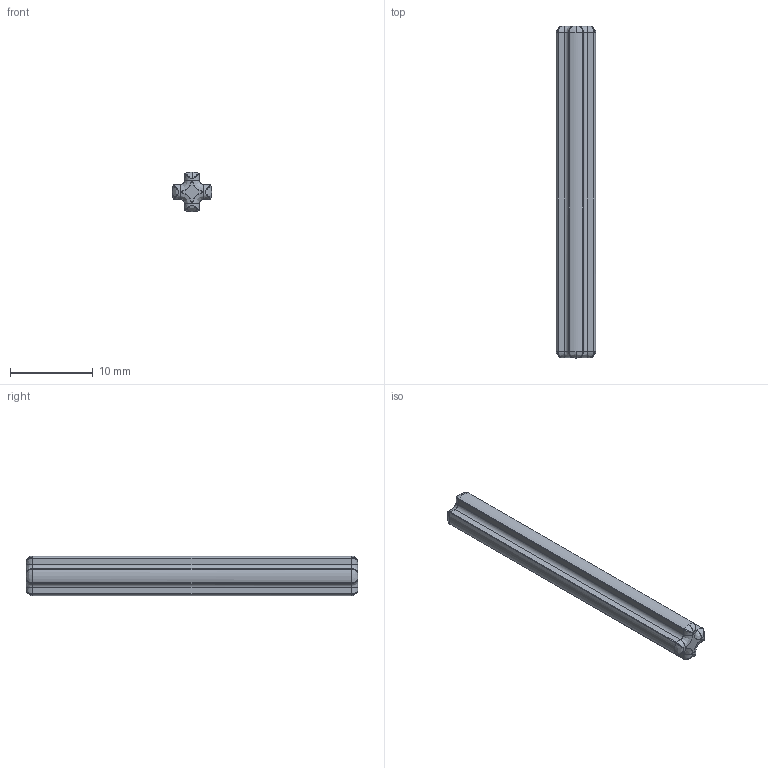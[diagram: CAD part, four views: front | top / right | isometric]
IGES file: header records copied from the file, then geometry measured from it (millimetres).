
Start section: C
Global section: file name: ClGray_4211639_JCA.iges; native system: By Siemens PLM Incorporated; preprocessor: XPlus GENERIC/IGES 26.1.183; author: Author; organization: Title; date: 20250721.235207; units: millimetre
Bounding box: 4.8 x 40 x 4.8 mm (x, y, z)
Surface area: 694.7 mm2 (no closed solid volume)
Topology: 0 solids, 0 shells, 77 faces, 338 edges, 322 vertices
Faces by surface type: bspline 77
